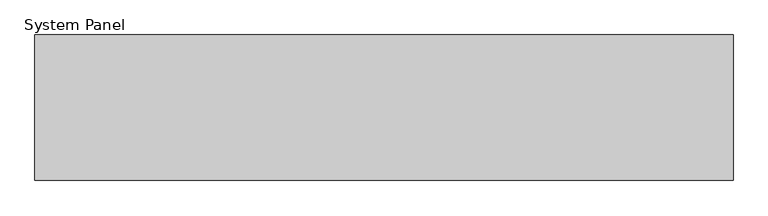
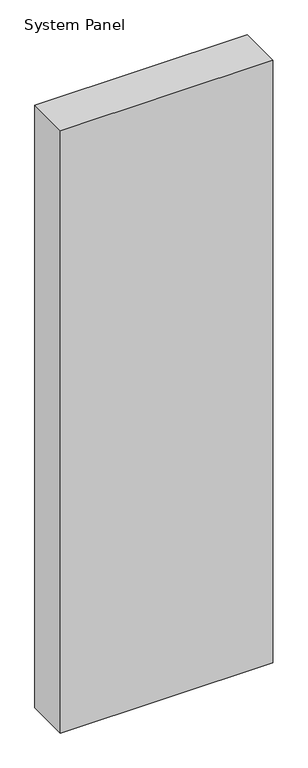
"""IFC4 building model written with IfcOpenShell, lengths in millimetres: plate geometry, System Panel : Equitilt_250mm_Plain_Surfmist."""

from ifc_helpers import new_model, si_unit, origin, origin_with_axes, place, context, project, spatial, polyline, outline, extrude, source, transform, mapped, element, save


def system_panel_d273da9d(model_context):
    return source(origin(), model_context, "Body", "SweptSolid", [
        extrude(outline(polyline([(600.0, 0.0), (-600.0, 0.0), (-600.0, 250.0), (600.0, 250.0), (600.0, 0.0)])), origin_with_axes(), (0.0, 0.0, 1.0), 3600.0),
    ])


if __name__ == "__main__":
    model = new_model("IFC4")
    model_context = context("Model", 3, world=origin())
    ifc_project = project(units=[si_unit("LENGTHUNIT", "METRE", prefix="MILLI")], contexts=[model_context])
    site = spatial("IfcSite", under=ifc_project)
    building = spatial("IfcBuilding", under=site)
    placement = place(None, origin())
    system_panel_shape = system_panel_d273da9d(model_context)
    element("IfcPlate", 1, ObjectType="System Panel : Equitilt_250mm_Plain_Surfmist", at=placement, inside=building, context=model_context, shape_type="MappedRepresentation", body=[
        mapped(system_panel_shape, transform((0.0, 0.0, 0.0), x_axis=(1.0, 0.0, 0.0), y_axis=(0.0, 1.0, 0.0), z_axis=(0.0, 0.0, 1.0))),
    ])
    save(model, "model.ifc")
